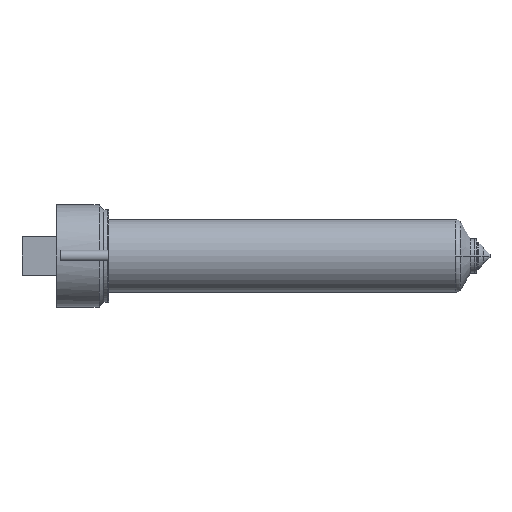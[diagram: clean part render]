
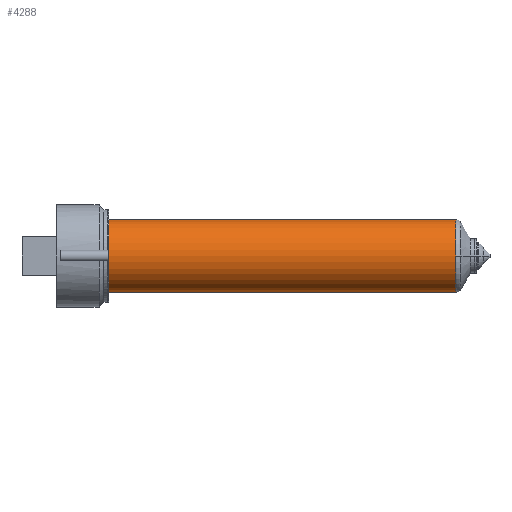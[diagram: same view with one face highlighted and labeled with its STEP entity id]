
A CAD part, front view. The second image highlights one B-rep face of the part: STEP entity #4288.
In plain terms, the highlighted cylindrical face has radius 19 mm (diameter 38 mm), a partial arc.
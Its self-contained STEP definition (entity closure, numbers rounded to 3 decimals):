
#40 = DIRECTION ( 'NONE',  ( -1., 0., 0. ) ) ;
#112 = CARTESIAN_POINT ( 'NONE',  ( 207.294, -19., 0. ) ) ;
#211 = CARTESIAN_POINT ( 'NONE',  ( 27., 0., 19. ) ) ;
#215 = EDGE_CURVE ( 'NONE', #4398, #1113, #2336, .T. ) ;
#326 = CARTESIAN_POINT ( 'NONE',  ( 207.294, 0., -19. ) ) ;
#392 = DIRECTION ( 'NONE',  ( 0., 0., 1. ) ) ;
#561 = ORIENTED_EDGE ( 'NONE', *, *, #6093, .T. ) ;
#675 = DIRECTION ( 'NONE',  ( -1., 0., 0. ) ) ;
#862 = VERTEX_POINT ( 'NONE', #112 ) ;
#1024 = AXIS2_PLACEMENT_3D ( 'NONE', #5064, #1923, #5569 ) ;
#1113 = VERTEX_POINT ( 'NONE', #211 ) ;
#1146 = CIRCLE ( 'NONE', #1024, 19. ) ;
#1410 = VECTOR ( 'NONE', #3501, 1000. ) ;
#1923 = DIRECTION ( 'NONE',  ( -1., 0., 0. ) ) ;
#1984 = CARTESIAN_POINT ( 'NONE',  ( 0., 0., 0. ) ) ;
#2100 = CARTESIAN_POINT ( 'NONE',  ( 207.294, 0., 19. ) ) ;
#2336 = CIRCLE ( 'NONE', #5635, 19. ) ;
#2369 = CIRCLE ( 'NONE', #3672, 19. ) ;
#2437 = CARTESIAN_POINT ( 'NONE',  ( 0., 0., -19. ) ) ;
#2762 = VERTEX_POINT ( 'NONE', #2100 ) ;
#2834 = CARTESIAN_POINT ( 'NONE',  ( 207.294, 0., 0. ) ) ;
#3373 = DIRECTION ( 'NONE',  ( 0., -1., 0. ) ) ;
#3501 = DIRECTION ( 'NONE',  ( -1., 0., 0. ) ) ;
#3511 = ORIENTED_EDGE ( 'NONE', *, *, #5224, .T. ) ;
#3555 = VERTEX_POINT ( 'NONE', #326 ) ;
#3591 = EDGE_CURVE ( 'NONE', #3555, #4398, #5733, .T. ) ;
#3614 = VECTOR ( 'NONE', #40, 1000. ) ;
#3672 = AXIS2_PLACEMENT_3D ( 'NONE', #2834, #6462, #3373 ) ;
#3790 = AXIS2_PLACEMENT_3D ( 'NONE', #1984, #5624, #392 ) ;
#3821 = CARTESIAN_POINT ( 'NONE',  ( 27., 0., 0. ) ) ;
#4174 = CARTESIAN_POINT ( 'NONE',  ( 27., 0., -19. ) ) ;
#4245 = CARTESIAN_POINT ( 'NONE',  ( 0., 0., 19. ) ) ;
#4288 = ADVANCED_FACE ( 'NONE', ( #5958 ), #5806, .T. ) ;
#4355 = DIRECTION ( 'NONE',  ( 0., 0., 1. ) ) ;
#4398 = VERTEX_POINT ( 'NONE', #4174 ) ;
#4497 = EDGE_CURVE ( 'NONE', #2762, #1113, #6198, .T. ) ;
#4635 = ORIENTED_EDGE ( 'NONE', *, *, #215, .F. ) ;
#4720 = ORIENTED_EDGE ( 'NONE', *, *, #4497, .T. ) ;
#5064 = CARTESIAN_POINT ( 'NONE',  ( 207.294, 0., 0. ) ) ;
#5224 = EDGE_CURVE ( 'NONE', #3555, #862, #1146, .T. ) ;
#5569 = DIRECTION ( 'NONE',  ( 0., -1., 0. ) ) ;
#5624 = DIRECTION ( 'NONE',  ( -1., 0., 0. ) ) ;
#5635 = AXIS2_PLACEMENT_3D ( 'NONE', #3821, #675, #4355 ) ;
#5733 = LINE ( 'NONE', #2437, #1410 ) ;
#5806 = CYLINDRICAL_SURFACE ( 'NONE', #3790, 19. ) ;
#5958 = FACE_OUTER_BOUND ( 'NONE', #6726, .T. ) ;
#6093 = EDGE_CURVE ( 'NONE', #862, #2762, #2369, .T. ) ;
#6142 = ORIENTED_EDGE ( 'NONE', *, *, #3591, .F. ) ;
#6198 = LINE ( 'NONE', #4245, #3614 ) ;
#6462 = DIRECTION ( 'NONE',  ( -1., 0., 0. ) ) ;
#6726 = EDGE_LOOP ( 'NONE', ( #6142, #3511, #561, #4720, #4635 ) ) ;
